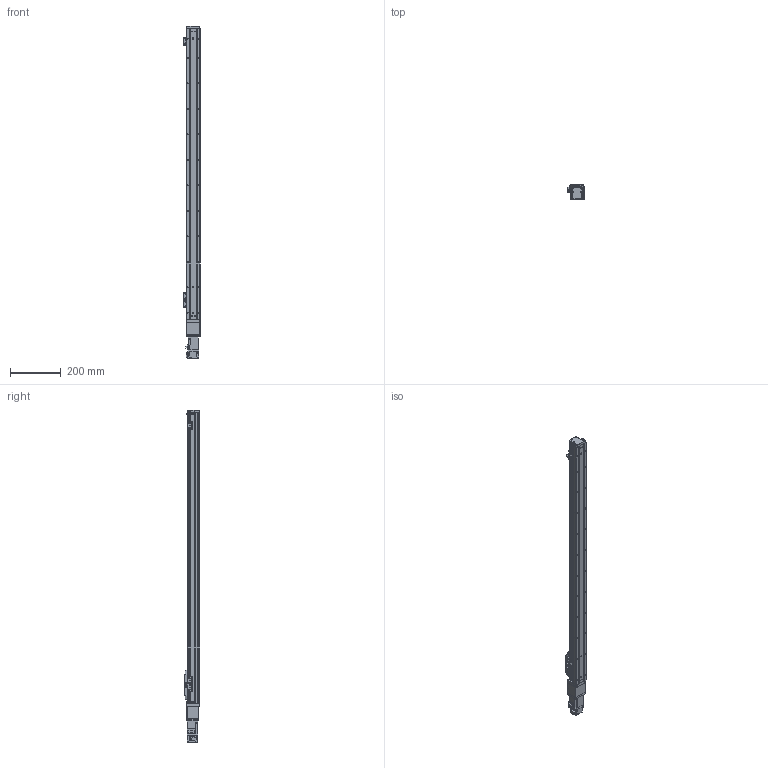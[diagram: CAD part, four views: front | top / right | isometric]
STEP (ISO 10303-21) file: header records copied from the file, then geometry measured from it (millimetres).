
FILE_DESCRIPTION (( 'STEP AP203' ), '1' );
FILE_NAME ('GTH5-1000-BC-M10-C4.step', '2023-08-28T00:46:33', ( '微软用户' ), ( '微软中国' ), 'SwSTEP 2.0', 'SolidWorks 2020', '' );
FILE_SCHEMA (( 'CONFIG_CONTROL_DESIGN' ));
Length unit declared in the file: millimetre
Products named in the file (20): GTH50-028; GTH50-006; GTH50-013; GTH50-022-1; GTH50-004; GTH50-023; CTHA60-027; GBT 70.3-M3℅6; GBT 70.1-M3℅6; CTHA60-013; BTH-M3X5X6; GBT96.1-2002 3×0.8; CTHA60-006-2_CTHA60-006-1; GTH50-001_1000; GTH50-024; HG-KR13; GBT 70.1-M4×16; GBT 70.1-M2.5×6; GTH5-1000-BC-M10-C4; GTH50-003
Assembly tree (60 placements, depth 2):
  GTH5-1000-BC-M10-C4
    GTH50-006
    GTH50-004
    GBT 70.3-M3℅6  x6
    BTH-M3X5X6  x8
    GTH50-001_1000
    GBT 70.1-M4×16  x8
    GTH50-003
    GTH50-013
    GTH50-023  x3
    GBT 70.1-M3℅6  x12
    GBT96.1-2002 3×0.8  x6
    GTH50-024  x3
    GBT 70.1-M2.5×6  x2
    GTH50-028  x2
    GTH50-022-1
    CTHA60-027
    CTHA60-013
    CTHA60-006-2_CTHA60-006-1
    HG-KR13
Bounding box: 63.8 x 60 x 1302.6 mm (x, y, z)
Volume: 2691486.9 mm3; surface area: 394022 mm2
Topology: 62 solids, 62 shells, 2069 faces, 4764 edges, 2910 vertices
Faces by surface type: plane 1105, cylinder 563, cone 235, torus 158, sphere 8
Entity records: 34847 total; most frequent: DIRECTION 5647, CARTESIAN_POINT 5511, ORIENTED_EDGE 5214, EDGE_CURVE 2607, AXIS2_PLACEMENT_3D 1952, LINE 1743, VECTOR 1743, VERTEX_POINT 1650
